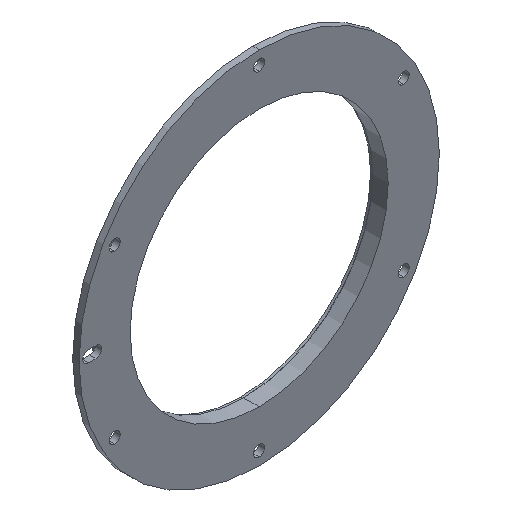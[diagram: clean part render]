
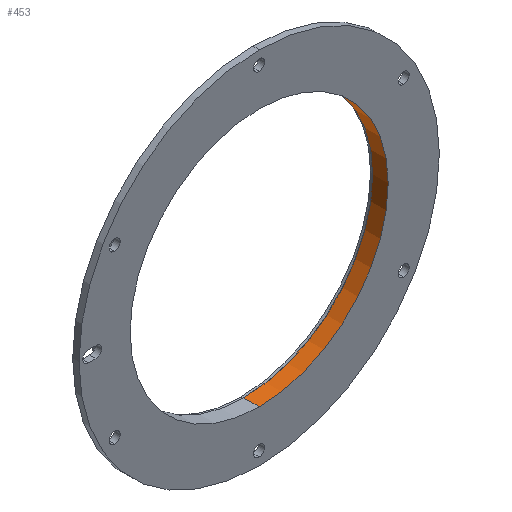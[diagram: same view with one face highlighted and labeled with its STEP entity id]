
A CAD part, isometric view. The second image highlights one B-rep face of the part: STEP entity #453.
In plain terms, the highlighted cylindrical face has radius 34 mm (diameter 68 mm), a partial arc.
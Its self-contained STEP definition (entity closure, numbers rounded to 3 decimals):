
#77 = VERTEX_POINT ( 'NONE', #193 ) ;
#85 = CARTESIAN_POINT ( 'NONE',  ( 0., 0., 34. ) ) ;
#115 = CARTESIAN_POINT ( 'NONE',  ( 0., 0., 0. ) ) ;
#120 = DIRECTION ( 'NONE',  ( 0., -1., 0. ) ) ;
#163 = ORIENTED_EDGE ( 'NONE', *, *, #1128, .F. ) ;
#193 = CARTESIAN_POINT ( 'NONE',  ( 0., 0., -34. ) ) ;
#213 = DIRECTION ( 'NONE',  ( 0., 0., -1. ) ) ;
#229 = CARTESIAN_POINT ( 'NONE',  ( 0., 4.1, 34. ) ) ;
#265 = DIRECTION ( 'NONE',  ( 0., -1., 0. ) ) ;
#273 = LINE ( 'NONE', #999, #962 ) ;
#300 = DIRECTION ( 'NONE',  ( 0., -1., 0. ) ) ;
#368 = VECTOR ( 'NONE', #727, 1000. ) ;
#376 = CARTESIAN_POINT ( 'NONE',  ( 0., 0., 0. ) ) ;
#386 = DIRECTION ( 'NONE',  ( 0., 0., -1. ) ) ;
#412 = EDGE_LOOP ( 'NONE', ( #163, #926, #652, #538 ) ) ;
#453 = ADVANCED_FACE ( 'NONE', ( #759 ), #808, .F. ) ;
#478 = DIRECTION ( 'NONE',  ( 0., -1., 0. ) ) ;
#490 = EDGE_CURVE ( 'NONE', #77, #837, #588, .T. ) ;
#504 = EDGE_CURVE ( 'NONE', #866, #77, #768, .T. ) ;
#527 = CARTESIAN_POINT ( 'NONE',  ( 0., 4.1, -34. ) ) ;
#530 = DIRECTION ( 'NONE',  ( 0., 0., -1. ) ) ;
#538 = ORIENTED_EDGE ( 'NONE', *, *, #490, .T. ) ;
#565 = VERTEX_POINT ( 'NONE', #229 ) ;
#588 = CIRCLE ( 'NONE', #987, 34. ) ;
#652 = ORIENTED_EDGE ( 'NONE', *, *, #504, .T. ) ;
#727 = DIRECTION ( 'NONE',  ( 0., -1., 0. ) ) ;
#759 = FACE_OUTER_BOUND ( 'NONE', #412, .T. ) ;
#768 = LINE ( 'NONE', #828, #368 ) ;
#808 = CYLINDRICAL_SURFACE ( 'NONE', #1050, 34. ) ;
#825 = EDGE_CURVE ( 'NONE', #866, #565, #1131, .T. ) ;
#828 = CARTESIAN_POINT ( 'NONE',  ( 0., 0., -34. ) ) ;
#837 = VERTEX_POINT ( 'NONE', #85 ) ;
#866 = VERTEX_POINT ( 'NONE', #527 ) ;
#875 = CARTESIAN_POINT ( 'NONE',  ( 0., 4.1, 0. ) ) ;
#926 = ORIENTED_EDGE ( 'NONE', *, *, #825, .F. ) ;
#962 = VECTOR ( 'NONE', #300, 1000. ) ;
#987 = AXIS2_PLACEMENT_3D ( 'NONE', #376, #120, #213 ) ;
#999 = CARTESIAN_POINT ( 'NONE',  ( 0., 0., 34. ) ) ;
#1050 = AXIS2_PLACEMENT_3D ( 'NONE', #115, #478, #386 ) ;
#1114 = AXIS2_PLACEMENT_3D ( 'NONE', #875, #265, #530 ) ;
#1128 = EDGE_CURVE ( 'NONE', #565, #837, #273, .T. ) ;
#1131 = CIRCLE ( 'NONE', #1114, 34. ) ;
